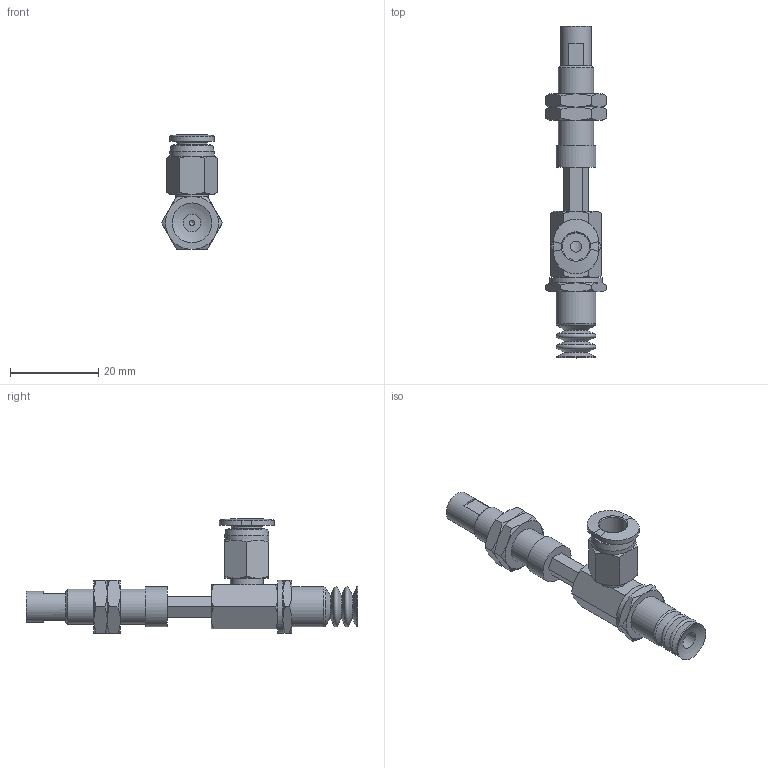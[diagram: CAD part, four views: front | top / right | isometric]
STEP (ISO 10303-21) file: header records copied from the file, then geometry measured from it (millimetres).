
FILE_DESCRIPTION(('STEP AP203'),'1');
FILE_NAME('-O.stp','2025-04-04T00:54:30',(' '),(' '),'Spatial InterOp 3D',' ',' ');
FILE_SCHEMA(('CONFIG_CONTROL_DESIGN'));
Length unit declared in the file: millimetre
Products named in the file (8): BNABPCYH-10-10-※-O; Adapter_napc-10-T; Connector_h-10-10; Nut napc_h-10-10; NAPCTH-10-10-FBODY; NAPCTH-10-10-MBODY; BPCG-10-※; PC-C_06-M5
Assembly tree (8 placements, depth 2):
  BNABPCYH-10-10-※-O
    Adapter_napc-10-T
    Connector_h-10-10
    Nut napc_h-10-10  x2
    NAPCTH-10-10-FBODY
    NAPCTH-10-10-MBODY
    BPCG-10-※
    PC-C_06-M5
Bounding box: 13.86 x 75.2 x 25.98 mm (x, y, z)
Volume: 4480.3 mm3; surface area: 6058.4 mm2
Topology: 7 solids, 10 shells, 220 faces, 460 edges, 274 vertices
Faces by surface type: plane 88, cone 85, cylinder 28, torus 10, bspline 4, revolution 3, sphere 2
Full cylindrical faces by diameter (mm): 1.25 x1, 4 x3, 4.134 x3, 5 x7, 7 x2, 7.188 x2, 7.4 x1, 8 x1, 8.2 x1, 9 x3, 10 x1, 12 x1
Entity records: 5872 total; most frequent: CARTESIAN_POINT 1678, DIRECTION 781, ORIENTED_EDGE 690, EDGE_CURVE 347, AXIS2_PLACEMENT_3D 339, EDGE_LOOP 284, VERTEX_POINT 242, FACE_OUTER_BOUND 174
